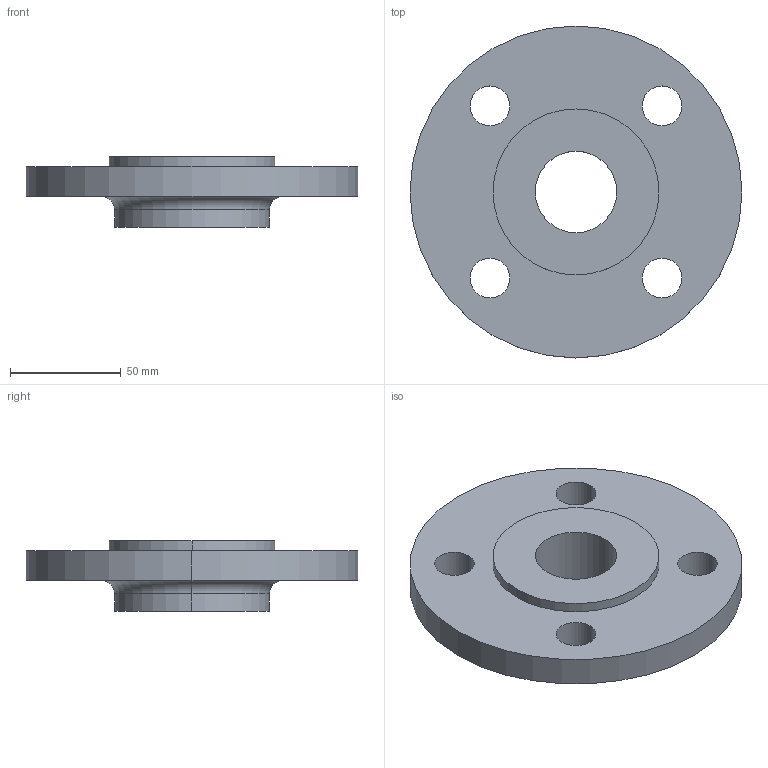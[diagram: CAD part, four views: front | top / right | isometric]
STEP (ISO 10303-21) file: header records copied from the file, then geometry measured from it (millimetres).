
FILE_DESCRIPTION (( 'STEP AP214' ), '1' );
FILE_NAME ('PN40 DN40 Type 13 - Type E Face.STEP', '2018-12-30T04:18:31', ( '' ), ( '' ), 'SwSTEP 2.0', 'SolidWorks 2019', '' );
FILE_SCHEMA (( 'AUTOMOTIVE_DESIGN' ));
Length unit declared in the file: millimetre
Products named in the file (1): PN40 DN40 Type 13 - Type E Face
Bounding box: 150 x 150 x 32 mm (x, y, z)
Volume: 266399.1 mm3; surface area: 47884.3 mm2
Topology: 1 solids, 1 shells, 22 faces, 52 edges, 34 vertices
Faces by surface type: cylinder 16, plane 4, torus 2
Entity records: 710 total; most frequent: DIRECTION 134, CARTESIAN_POINT 109, ORIENTED_EDGE 104, AXIS2_PLACEMENT_3D 59, EDGE_CURVE 52, CIRCLE 36, EDGE_LOOP 34, VERTEX_POINT 34
